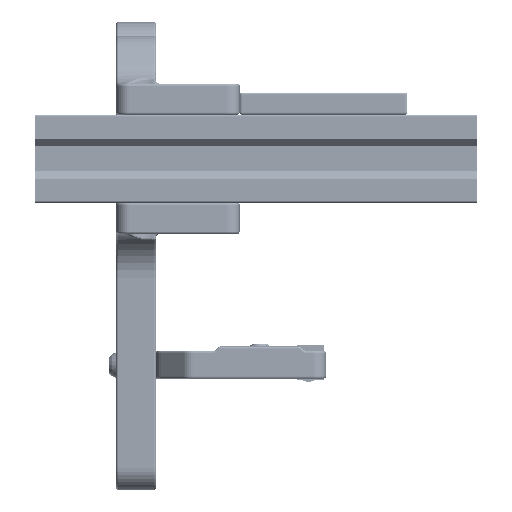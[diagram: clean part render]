
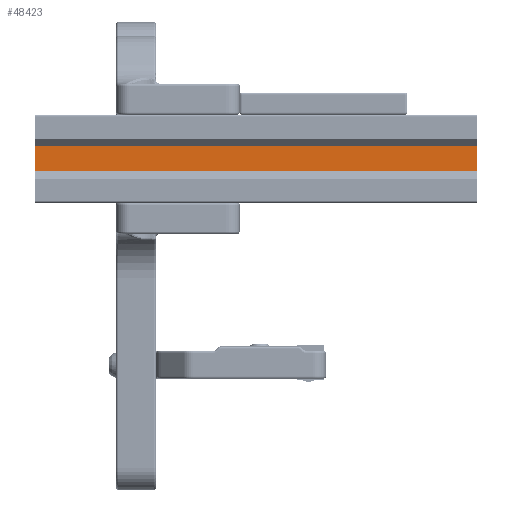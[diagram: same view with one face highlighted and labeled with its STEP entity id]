
A CAD part, front view. The second image highlights one B-rep face of the part: STEP entity #48423.
In plain terms, the highlighted planar face has unit normal (0, -1, 0).
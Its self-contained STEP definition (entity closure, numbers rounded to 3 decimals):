
#3740=PLANE('',#51887);
#4475=FACE_OUTER_BOUND('',#7554,.T.);
#7554=EDGE_LOOP('',(#32086,#32087,#32088,#32089));
#10779=LINE('',#70459,#13867);
#10899=LINE('',#70710,#13987);
#10900=LINE('',#70713,#13988);
#10901=LINE('',#70714,#13989);
#13867=VECTOR('',#57030,10.);
#13987=VECTOR('',#57268,10.);
#13988=VECTOR('',#57271,10.);
#13989=VECTOR('',#57272,10.);
#19437=VERTEX_POINT('',#70456);
#19438=VERTEX_POINT('',#70458);
#19510=VERTEX_POINT('',#70708);
#19511=VERTEX_POINT('',#70712);
#24179=EDGE_CURVE('',#19437,#19438,#10779,.T.);
#24305=EDGE_CURVE('',#19437,#19510,#10899,.T.);
#24306=EDGE_CURVE('',#19511,#19510,#10900,.F.);
#24307=EDGE_CURVE('',#19438,#19511,#10901,.T.);
#32086=ORIENTED_EDGE('',*,*,#24179,.F.);
#32087=ORIENTED_EDGE('',*,*,#24305,.T.);
#32088=ORIENTED_EDGE('',*,*,#24306,.F.);
#32089=ORIENTED_EDGE('',*,*,#24307,.F.);
#48423=ADVANCED_FACE('',(#4475),#3740,.T.);
#51887=AXIS2_PLACEMENT_3D('',#70711,#57269,#57270);
#57030=DIRECTION('',(0.,0.,1.));
#57268=DIRECTION('',(1.,0.,0.));
#57269=DIRECTION('center_axis',(0.,-1.,0.));
#57270=DIRECTION('ref_axis',(0.,0.,
-1.));
#57271=DIRECTION('',(0.,0.,1.));
#57272=DIRECTION('',(1.,0.,0.));
#70456=CARTESIAN_POINT('',(-47.5,24.913,-7.845));
#70458=CARTESIAN_POINT('',(-47.5,24.913,-2.155));
#70459=CARTESIAN_POINT('',(-47.5,24.913,-3.577));
#70708=CARTESIAN_POINT('',(52.5,24.913,-7.845));
#70710=CARTESIAN_POINT('',(-97.5,24.913,-7.845));
#70711=CARTESIAN_POINT('Origin',(-97.5,24.913,-2.155));
#70712=CARTESIAN_POINT('',(52.5,24.913,-2.155));
#70713=CARTESIAN_POINT('',(52.5,24.913,-3.578));
#70714=CARTESIAN_POINT('',(-97.5,24.913,-2.155));
